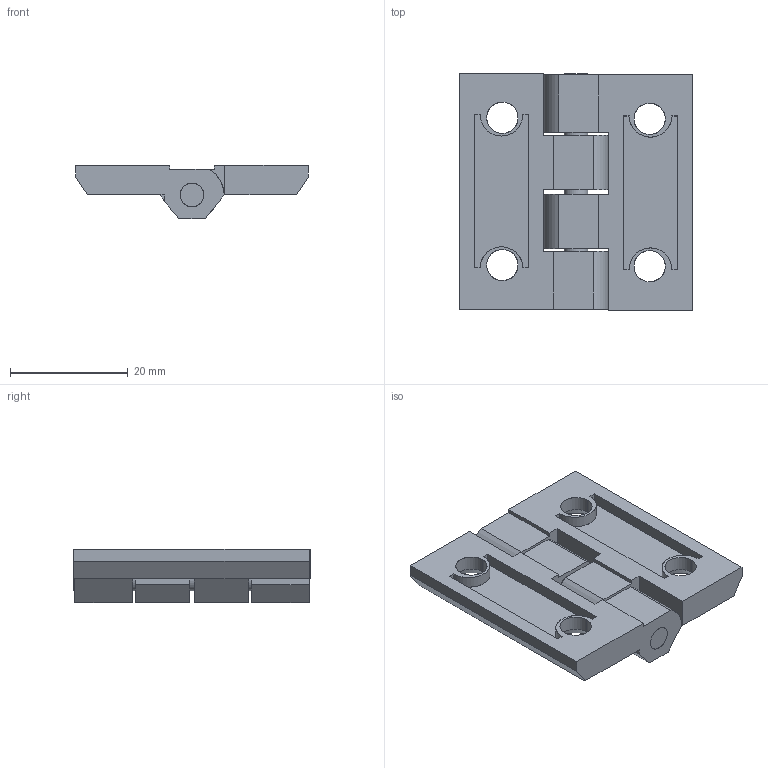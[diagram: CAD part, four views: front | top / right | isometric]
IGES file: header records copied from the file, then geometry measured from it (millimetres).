
Start section: SolidWorks IGES file using analytic representation for surfaces
Global section: file name: C:\Documents and Settings\Deathkiller\桌面\3D IGES\鉸鏈HINGES\CL-226 series\226-3.IGS; native system: SolidWorks 2006 by SolidWorks Corporation; preprocessor: SolidWorks 2006 by SolidWorks Corporation; author: Deathkiller; date: 080620.131218; units: millimetre
Bounding box: 39.5 x 40.2 x 9 mm (x, y, z)
Surface area: 6093.8 mm2 (no closed solid volume)
Topology: 0 solids, 0 shells, 96 faces, 1228 edges, 1228 vertices
Faces by surface type: bspline 62, revolution 34
